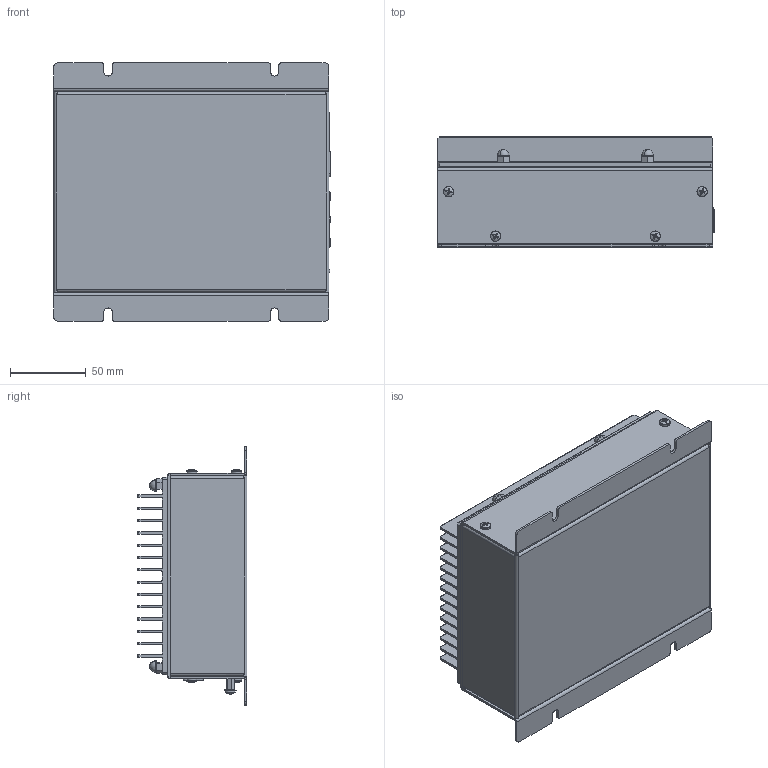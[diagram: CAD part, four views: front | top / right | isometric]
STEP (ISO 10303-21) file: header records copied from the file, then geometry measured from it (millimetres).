
FILE_DESCRIPTION (( 'STEP AP203' ), '1' );
FILE_NAME ('72 cell Final Assembly external faces 14fin.STEP', '2016-12-13T15:31:38', ( '' ), ( '' ), 'SwSTEP 2.0', 'SolidWorks 2016', '' );
FILE_SCHEMA (( 'CONFIG_CONTROL_DESIGN' ));
Length unit declared in the file: inch
Products named in the file (1): 72 cell Final Assembly external faces 14fin
Bounding box: 182.44 x 72.59 x 170.59 mm (x, y, z)
Surface area: 318458.1 mm2 (no closed solid volume)
Topology: 0 solids, 31 shells, 1079 faces, 4004 edges, 2897 vertices
Faces by surface type: plane 787, cylinder 195, cone 31, sphere 28, torus 26, bspline 12
Entity records: 43611 total; most frequent: CARTESIAN_POINT 9819, DIRECTION 6879, ORIENTED_EDGE 6439, EDGE_CURVE 4004, VERTEX_POINT 2897, VECTOR 2453, LINE 2453, AXIS2_PLACEMENT_3D 2213
